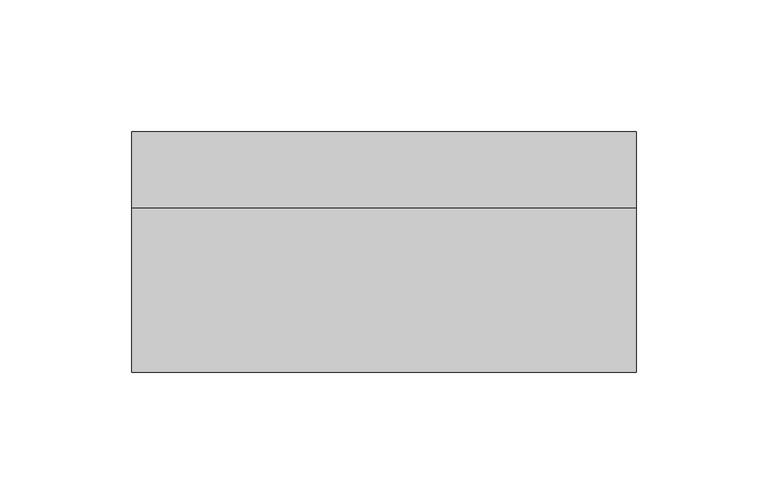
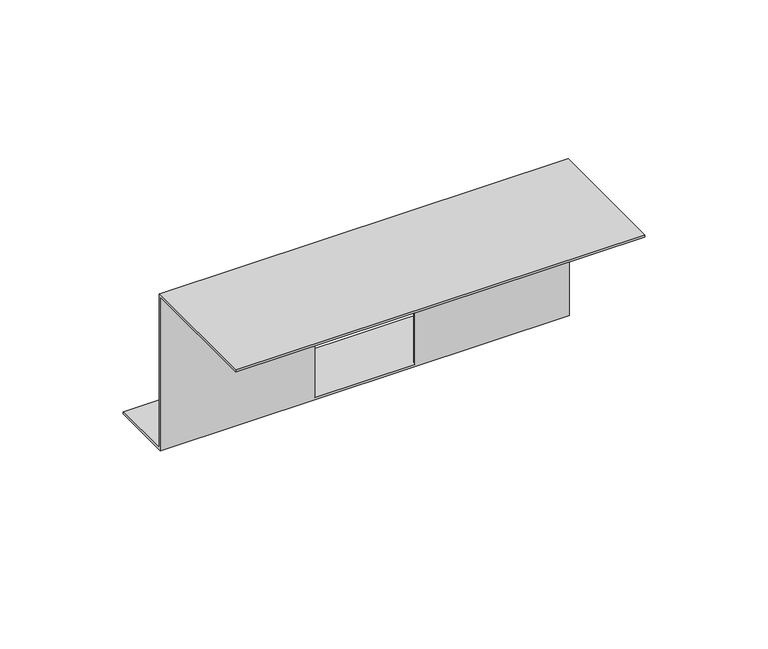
"""IFC4 building model written with IfcOpenShell, lengths in millimetres: proxy geometry, Суппорт для установки автоматических выключателей в лючок : Суппорт для установки автоматических выключателей в лючок."""

from ifc_helpers import new_model, si_unit, origin, place, context, project, spatial, faceted_brep, source, transform, mapped, element, save


def electrical_fixtures_955ce091(model_context):
    return source(origin(), model_context, "Body", "Brep", [
        faceted_brep([(95.75, 0.0, 76.0), (95.75, 61.2, 76.0), (95.75, 61.2, 0.0), (95.75, 91.2, 0.0), (95.75, 91.2, 1.0), (95.75, 62.2, 1.0), (95.75, 62.2, 77.0), (95.75, 0.0, 77.0), (-95.75, 0.0, 76.0), (-95.75, 0.0, 77.0), (-95.75, 62.2, 77.0), (-95.75, 62.2, 1.0), (-95.75, 91.2, 1.0), (-95.75, 91.2, 0.0), (-95.75, 61.2, 0.0), (-95.75, 61.2, 76.0), (23.5, 62.2, 1.0), (23.5, 62.2, 76.0), (-23.5, 62.2, 76.0), (-23.5, 62.2, 1.0), (-23.5, 61.2, 1.0), (23.5, 61.2, 1.0), (23.5, 61.2, 76.0), (-23.5, 61.2, 76.0)], [[[0, 1, 2, 3, 4, 5, 6, 7]], [[8, 9, 10, 11, 12, 13, 14, 15]], [[7, 9, 8, 0]], [[6, 10, 9, 7]], [[5, 16, 17, 18, 19, 11, 10, 6]], [[4, 12, 11, 19, 20, 21, 16, 5]], [[3, 13, 12, 4]], [[2, 14, 13, 3]], [[1, 22, 21, 20, 23, 15, 14, 2]], [[0, 8, 15, 23, 18, 17, 22, 1]], [[23, 20, 19, 18]], [[17, 16, 21, 22]]]),
    ])


if __name__ == "__main__":
    model = new_model("IFC4")
    model_context = context("Model", 3, world=origin())
    ifc_project = project(units=[si_unit("LENGTHUNIT", "METRE", prefix="MILLI")], contexts=[model_context])
    site = spatial("IfcSite", under=ifc_project)
    building = spatial("IfcBuilding", under=site)
    placement = place(None, origin())
    electrical_fixtures_shape = electrical_fixtures_955ce091(model_context)
    element("IfcBuildingElementProxy", 1, Name="Суппорт для установки автоматических выключателей в лючок : Суппорт для установки автоматических выключателей в лючок", ObjectType="Суппорт для установки автоматических выключателей в лючок : Суппорт для установки автоматических выключателей в лючок", at=placement, inside=building, context=model_context, shape_type="MappedRepresentation", body=[
        mapped(electrical_fixtures_shape, transform((0.0, 0.0, 0.0), x_axis=(1.0, 0.0, 0.0), y_axis=(0.0, 1.0, 0.0), z_axis=(0.0, 0.0, 1.0))),
    ])
    save(model, "model.ifc")
